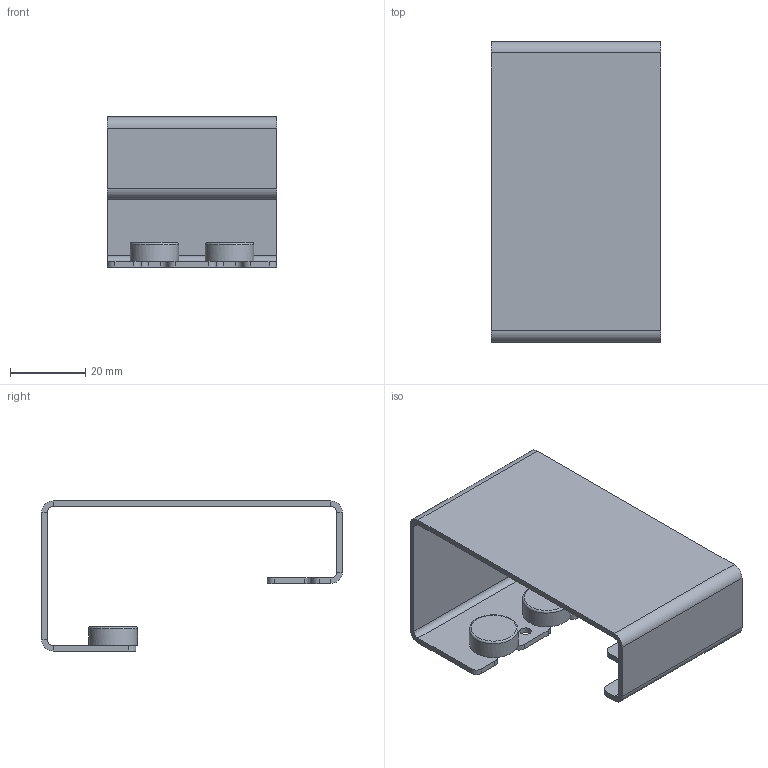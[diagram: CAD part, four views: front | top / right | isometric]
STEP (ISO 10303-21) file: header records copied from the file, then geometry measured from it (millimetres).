
FILE_DESCRIPTION(/* description */ (''),/* implementation_level */ '2;1');
FILE_NAME(/* name */ 'D:\DABSTORY\Folder dabstory pulpit - 16.03.2020\1. Oferta łazienkowa\Prototypy\Haczyk na ręcznik\Wer.7\Wieszak DW5 model 3D\Wieszak DW5.stp',/* time_stamp */ '2021-04-27T15:51:20+02:00',/* author */ ('Verical'),/* organization */ (''),/* preprocessor_version */ 'ST-DEVELOPER v17',/* originating_system */ 'Autodesk Inventor 2018',/* authorisation */ '');
FILE_SCHEMA (('AUTOMOTIVE_DESIGN { 1 0 10303 214 3 1 1 }'));
Length unit declared in the file: millimetre
Products named in the file (1): Wieszak DW5
Bounding box: 45 x 80 x 40 mm (x, y, z)
Volume: 12586 mm3; surface area: 16407.5 mm2
Topology: 1 solids, 1 shells, 75 faces, 187 edges, 114 vertices
Faces by surface type: plane 46, cylinder 27, torus 2
Full cylindrical faces by diameter (mm): 3 x1, 13 x2
Entity records: 2260 total; most frequent: DIRECTION 411, CARTESIAN_POINT 377, ORIENTED_EDGE 374, EDGE_CURVE 187, AXIS2_PLACEMENT_3D 148, LINE 115, VECTOR 115, VERTEX_POINT 114
